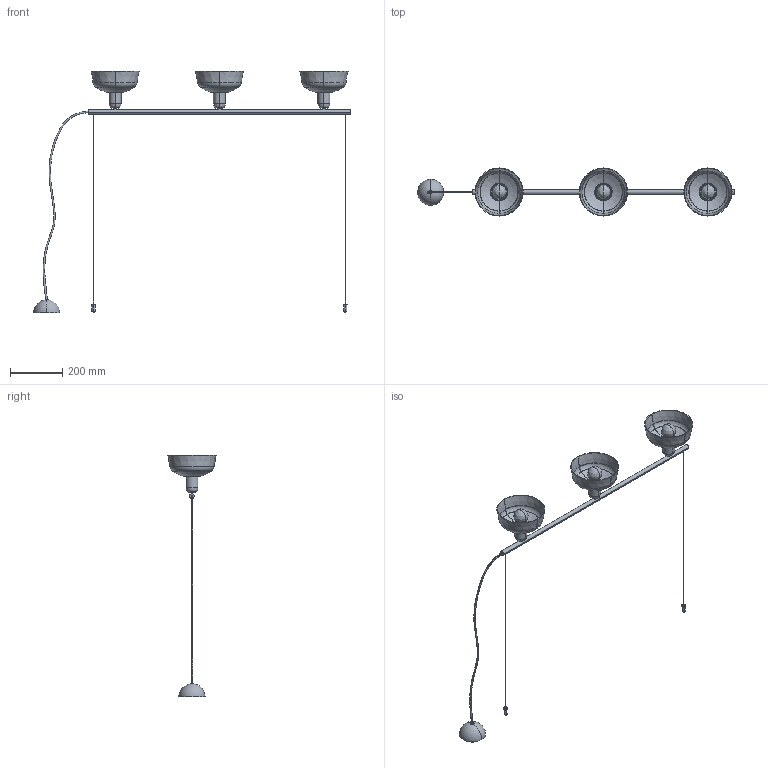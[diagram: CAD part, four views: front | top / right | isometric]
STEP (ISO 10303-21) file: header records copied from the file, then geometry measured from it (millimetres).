
FILE_DESCRIPTION(/* description */ (''),/* implementation_level */ '2;1');
FILE_NAME(/* name */ 'tatawin_pendantlamp_linear_s_3.step',/* time_stamp */ '2024-10-22T10:45:48+02:00',/* author */ ('RenataManzini'),/* organization */ (''),/* preprocessor_version */ 'ST-DEVELOPER v20',/* originating_system */ 'AutoCAD Mechanical',/* authorisation */ '');
FILE_SCHEMA (('AUTOMOTIVE_DESIGN { 1 0 10303 214 3 1 1 }'));
Length unit declared in the file: millimetre
Products named in the file (1): Product
Bounding box: 1210.75 x 184.01 x 923.8 mm (x, y, z)
Volume: 1264202.4 mm3; surface area: 834919.8 mm2
Topology: 21 solids, 21 shells, 408 faces, 878 edges, 488 vertices
Faces by surface type: plane 144, cylinder 120, bspline 62, torus 48, cone 30, sphere 4
Entity records: 16493 total; most frequent: CARTESIAN_POINT 8069, DIRECTION 1768, ORIENTED_EDGE 1720, EDGE_CURVE 860, AXIS2_PLACEMENT_3D 731, VERTEX_POINT 480, EDGE_LOOP 420, FACE_OUTER_BOUND 408
